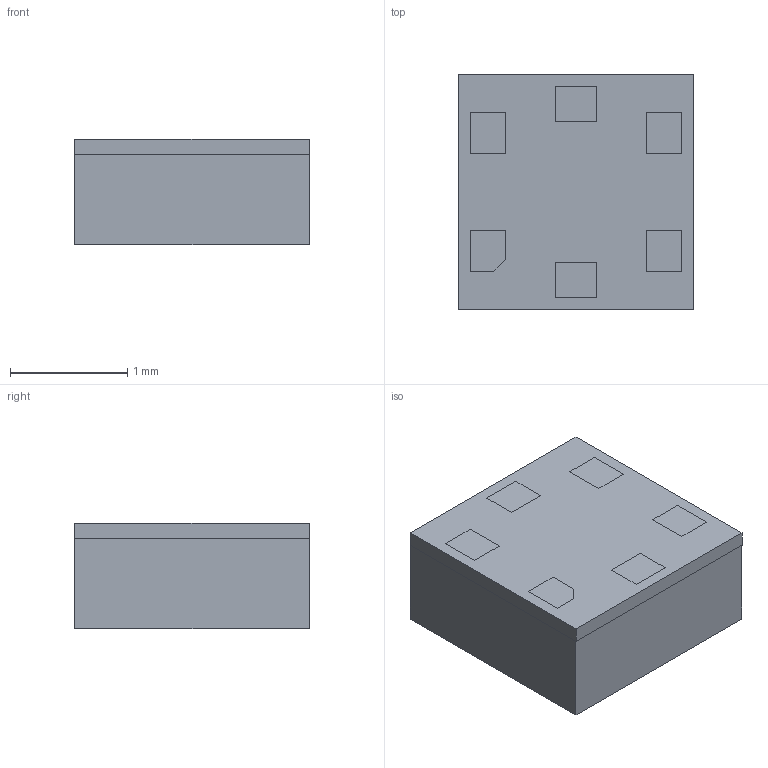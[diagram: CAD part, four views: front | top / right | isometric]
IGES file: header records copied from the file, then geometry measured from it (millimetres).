
Start section: C
Global section: file name: 25250202100xx.igs; native system: By Siemens PLM Incorporated; preprocessor: XPlus GENERIC/IGES 21.0.46; author: Author; organization: Title; date: 20200421.152358; units: millimetre
Bounding box: 2 x 2 x 0.9 mm (x, y, z)
Surface area: 26.4 mm2 (no closed solid volume)
Topology: 0 solids, 0 shells, 110 faces, 502 edges, 502 vertices
Faces by surface type: bspline 110
